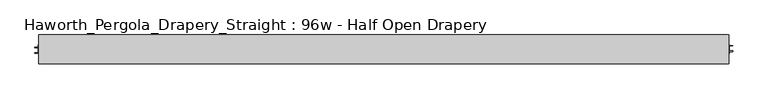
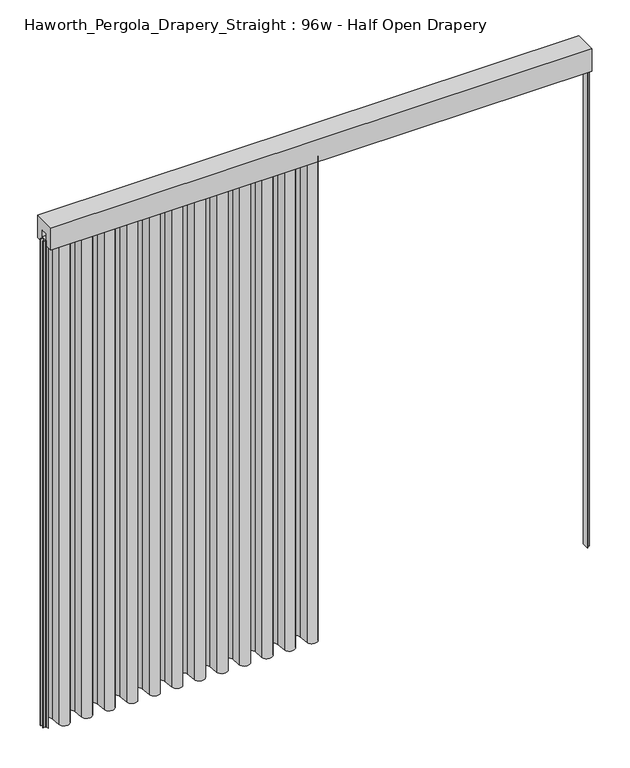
"""IFC4 building model written with IfcOpenShell, lengths in millimetres: furniture geometry, Haworth_Pergola_Drapery_Straight : 96w - Half Open Drapery."""

from ifc_helpers import new_model, si_unit, point, frame, frame_2d, origin, place, context, project, spatial, polyline, circle_curve, trimmed, segment, composite_curve, outline, extrude, source, transform, mapped, element, save


def haworth_pergola_drapery_straight_96w_half_open_drapery_5506e995(model_context):
    return source(origin(), model_context, "Body", "SweptSolid", [
        extrude(outline(polyline([(50.8, 2438.4), (50.8, 2331.8390625), (15.2182948, 2331.8390625), (15.2182948, 2388.7001663), (-15.2182948, 2388.7001663), (-15.2182948, 2331.8390625), (-50.8, 2331.8390625), (-50.8, 2438.4), (50.8, 2438.4)])), frame((-1790.7, 0.0, 0.0), z_axis=(1.0, 0.0, 0.0), x_axis=(0.0, 1.0, 0.0)), (0.0, 0.0, 1.0), 2438.4),
        extrude(outline(composite_curve([segment(trimmed(circle_curve(frame_2d((-1765.2970217, 20.9840165)), 23.4029783), [point((-1788.7, 20.9840165))], [point((-1741.9892377, 23.0927114))], False, "CARTESIAN"), True, "CONTINUOUS"), segment(polyline([(-1741.9892377, 23.0927114), (-1737.7895802, -23.3268581)]), True, "CONTINUOUS"), segment(trimmed(circle_curve(frame_2d((-1714.5, -21.2198101)), 23.3847), [point((-1737.7895802, -23.3268581))], [point((-1691.2104196, -23.3268558))], True, "CARTESIAN"), True, "CONTINUOUS"), segment(polyline([(-1691.2104196, -23.3268558), (-1687.0203818, 22.9864352)]), True, "CONTINUOUS"), segment(trimmed(circle_curve(frame_2d((-1663.7000023, 20.876603)), 23.415625), [point((-1687.0203818, 22.9864352))], [point((-1640.3796229, 22.9864375))], False, "CARTESIAN"), True, "CONTINUOUS"), segment(polyline([(-1640.3796229, 22.9864375), (-1636.2203794, -22.986429)]), True, "CONTINUOUS"), segment(trimmed(circle_curve(frame_2d((-1612.9, -20.8765946)), 23.415625), [point((-1636.2203794, -22.986429))], [point((-1589.5796205, -22.9864268))], True, "CARTESIAN"), True, "CONTINUOUS"), segment(polyline([(-1589.5796205, -22.9864268), (-1585.4203818, 22.9864354)]), True, "CONTINUOUS"), segment(trimmed(circle_curve(frame_2d((-1562.1000023, 20.8766032)), 23.415625), [point((-1585.4203818, 22.9864354))], [point((-1538.7796229, 22.9864377))], False, "CARTESIAN"), True, "CONTINUOUS"), segment(polyline([(-1538.7796229, 22.9864377), (-1534.6203794, -22.9864294)]), True, "CONTINUOUS"), segment(trimmed(circle_curve(frame_2d((-1511.3, -20.876595)), 23.415625), [point((-1534.6203794, -22.9864294))], [point((-1487.9796205, -22.9864271))], True, "CARTESIAN"), True, "CONTINUOUS"), segment(polyline([(-1487.9796205, -22.9864271), (-1483.8203818, 22.9864352)]), True, "CONTINUOUS"), segment(trimmed(circle_curve(frame_2d((-1460.5000023, 20.876603)), 23.415625), [point((-1483.8203818, 22.9864352))], [point((-1437.1796229, 22.9864375))], False, "CARTESIAN"), True, "CONTINUOUS"), segment(polyline([(-1437.1796229, 22.9864375), (-1432.9895802, -23.3268581)]), True, "CONTINUOUS"), segment(trimmed(circle_curve(frame_2d((-1409.7, -21.2198101)), 23.3847), [point((-1432.9895802, -23.3268581))], [point((-1386.4104196, -23.3268558))], True, "CARTESIAN"), True, "CONTINUOUS"), segment(polyline([(-1386.4104196, -23.3268558), (-1382.2203818, 22.9864352)]), True, "CONTINUOUS"), segment(trimmed(circle_curve(frame_2d((-1358.9000023, 20.876603)), 23.415625), [point((-1382.2203818, 22.9864352))], [point((-1335.5796229, 22.9864375))], False, "CARTESIAN"), True, "CONTINUOUS"), segment(polyline([(-1335.5796229, 22.9864375), (-1331.3895802, -23.3268581)]), True, "CONTINUOUS"), segment(trimmed(circle_curve(frame_2d((-1308.1, -21.2198101)), 23.3847), [point((-1331.3895802, -23.3268581))], [point((-1284.8104196, -23.3268558))], True, "CARTESIAN"), True, "CONTINUOUS"), segment(polyline([(-1284.8104196, -23.3268558), (-1280.6203818, 22.9864352)]), True, "CONTINUOUS"), segment(trimmed(circle_curve(frame_2d((-1257.3000023, 20.876603)), 23.415625), [point((-1280.6203818, 22.9864352))], [point((-1233.9796229, 22.9864375))], False, "CARTESIAN"), True, "CONTINUOUS"), segment(polyline([(-1233.9796229, 22.9864375), (-1229.7895802, -23.3268581)]), True, "CONTINUOUS"), segment(trimmed(circle_curve(frame_2d((-1206.5, -21.2198101)), 23.3847), [point((-1229.7895802, -23.3268581))], [point((-1183.2104196, -23.3268558))], True, "CARTESIAN"), True, "CONTINUOUS"), segment(polyline([(-1183.2104196, -23.3268558), (-1179.0203818, 22.9864352)]), True, "CONTINUOUS"), segment(trimmed(circle_curve(frame_2d((-1155.7000023, 20.876603)), 23.415625), [point((-1179.0203818, 22.9864352))], [point((-1132.3796229, 22.9864375))], False, "CARTESIAN"), True, "CONTINUOUS"), segment(polyline([(-1132.3796229, 22.9864375), (-1128.1895802, -23.3268581)]), True, "CONTINUOUS"), segment(trimmed(circle_curve(frame_2d((-1104.9, -21.2198101)), 23.3847), [point((-1128.1895802, -23.3268581))], [point((-1081.6104196, -23.3268558))], True, "CARTESIAN"), True, "CONTINUOUS"), segment(polyline([(-1081.6104196, -23.3268558), (-1077.4203818, 22.9864352)]), True, "CONTINUOUS"), segment(trimmed(circle_curve(frame_2d((-1054.1000023, 20.876603)), 23.415625), [point((-1077.4203818, 22.9864352))], [point((-1030.7796229, 22.9864375))], False, "CARTESIAN"), True, "CONTINUOUS"), segment(polyline([(-1030.7796229, 22.9864375), (-1026.5895802, -23.3268581)]), True, "CONTINUOUS"), segment(trimmed(circle_curve(frame_2d((-1003.3, -21.2198101)), 23.3847), [point((-1026.5895802, -23.3268581))], [point((-980.0104196, -23.3268558))], True, "CARTESIAN"), True, "CONTINUOUS"), segment(polyline([(-980.0104196, -23.3268558), (-975.8203818, 22.9864352)]), True, "CONTINUOUS"), segment(trimmed(circle_curve(frame_2d((-952.5000023, 20.876603)), 23.415625), [point((-975.8203818, 22.9864352))], [point((-929.1796229, 22.9864375))], False, "CARTESIAN"), True, "CONTINUOUS"), segment(polyline([(-929.1796229, 22.9864375), (-924.9895802, -23.3268581)]), True, "CONTINUOUS"), segment(trimmed(circle_curve(frame_2d((-901.7, -21.2198101)), 23.3847), [point((-924.9895802, -23.3268581))], [point((-878.4104196, -23.3268558))], True, "CARTESIAN"), True, "CONTINUOUS"), segment(polyline([(-878.4104196, -23.3268558), (-874.2203818, 22.9864352)]), True, "CONTINUOUS"), segment(trimmed(circle_curve(frame_2d((-850.9000023, 20.876603)), 23.415625), [point((-874.2203818, 22.9864352))], [point((-827.5796229, 22.9864375))], False, "CARTESIAN"), True, "CONTINUOUS"), segment(polyline([(-827.5796229, 22.9864375), (-823.3895802, -23.3268581)]), True, "CONTINUOUS"), segment(trimmed(circle_curve(frame_2d((-800.1, -21.2198101)), 23.3847), [point((-823.3895802, -23.3268581))], [point((-776.8104196, -23.3268558))], True, "CARTESIAN"), True, "CONTINUOUS"), segment(polyline([(-776.8104196, -23.3268558), (-772.6203818, 22.9864352)]), True, "CONTINUOUS"), segment(trimmed(circle_curve(frame_2d((-749.3000023, 20.876603)), 23.415625), [point((-772.6203818, 22.9864352))], [point((-725.9796229, 22.9864375))], False, "CARTESIAN"), True, "CONTINUOUS"), segment(polyline([(-725.9796229, 22.9864375), (-721.7895802, -23.3268581)]), True, "CONTINUOUS"), segment(trimmed(circle_curve(frame_2d((-698.5, -21.2198101)), 23.3847), [point((-721.7895802, -23.3268581))], [point((-675.2104196, -23.3268558))], True, "CARTESIAN"), True, "CONTINUOUS"), segment(polyline([(-675.2104196, -23.3268558), (-671.0203818, 22.9864352)]), True, "CONTINUOUS"), segment(trimmed(circle_curve(frame_2d((-647.7000023, 20.876603)), 23.415625), [point((-671.0203818, 22.9864352))], [point((-624.3796229, 22.9864375))], False, "CARTESIAN"), True, "CONTINUOUS"), segment(polyline([(-624.3796229, 22.9864375), (-620.2000968, -23.2106161)]), True, "CONTINUOUS"), segment(trimmed(circle_curve(frame_2d((-596.9451118, -21.106698)), 23.3499635), [point((-620.2000968, -23.2106161))], [point((-573.5951483, -21.106698))], True, "CARTESIAN"), True, "CONTINUOUS"), segment(polyline([(-573.5951483, -21.106698), (-573.5951483, 25.4000007), (-572.8013983, 25.4000007), (-572.8013983, -21.106698)]), True, "CONTINUOUS"), segment(trimmed(circle_curve(frame_2d((-596.9451118, -21.106698)), 24.1437135), [point((-572.8013983, -21.106698))], [point((-620.9906181, -23.2821359))], False, "CARTESIAN"), True, "CONTINUOUS"), segment(polyline([(-620.9906181, -23.2821359), (-625.1701443, 22.9149177)]), True, "CONTINUOUS"), segment(trimmed(circle_curve(frame_2d((-647.7000023, 20.876603)), 22.621875), [point((-625.1701443, 22.9149177))], [point((-670.2298605, 22.9149155))], True, "CARTESIAN"), True, "CONTINUOUS"), segment(polyline([(-670.2298605, 22.9149155), (-674.4198983, -23.3983756)]), True, "CONTINUOUS"), segment(trimmed(circle_curve(frame_2d((-698.5, -21.2198101)), 24.17845), [point((-674.4198983, -23.3983756))], [point((-722.5801015, -23.3983779))], False, "CARTESIAN"), True, "CONTINUOUS"), segment(polyline([(-722.5801015, -23.3983779), (-726.7701443, 22.9149177)]), True, "CONTINUOUS"), segment(trimmed(circle_curve(frame_2d((-749.3000023, 20.876603)), 22.621875), [point((-726.7701443, 22.9149177))], [point((-771.8298605, 22.9149155))], True, "CARTESIAN"), True, "CONTINUOUS"), segment(polyline([(-771.8298605, 22.9149155), (-776.0198983, -23.3983756)]), True, "CONTINUOUS"), segment(trimmed(circle_curve(frame_2d((-800.1, -21.2198101)), 24.17845), [point((-776.0198983, -23.3983756))], [point((-824.1801015, -23.3983779))], False, "CARTESIAN"), True, "CONTINUOUS"), segment(polyline([(-824.1801015, -23.3983779), (-828.3701443, 22.9149177)]), True, "CONTINUOUS"), segment(trimmed(circle_curve(frame_2d((-850.9000023, 20.876603)), 22.621875), [point((-828.3701443, 22.9149177))], [point((-873.4298605, 22.9149155))], True, "CARTESIAN"), True, "CONTINUOUS"), segment(polyline([(-873.4298605, 22.9149155), (-877.6198983, -23.3983756)]), True, "CONTINUOUS"), segment(trimmed(circle_curve(frame_2d((-901.7, -21.2198101)), 24.17845), [point((-877.6198983, -23.3983756))], [point((-925.7801015, -23.3983779))], False, "CARTESIAN"), True, "CONTINUOUS"), segment(polyline([(-925.7801015, -23.3983779), (-929.9701443, 22.9149177)]), True, "CONTINUOUS"), segment(trimmed(circle_curve(frame_2d((-952.5000023, 20.876603)), 22.621875), [point((-929.9701443, 22.9149177))], [point((-975.0298605, 22.9149155))], True, "CARTESIAN"), True, "CONTINUOUS"), segment(polyline([(-975.0298605, 22.9149155), (-979.2198983, -23.3983756)]), True, "CONTINUOUS"), segment(trimmed(circle_curve(frame_2d((-1003.3, -21.2198101)), 24.17845), [point((-979.2198983, -23.3983756))], [point((-1027.3801015, -23.3983779))], False, "CARTESIAN"), True, "CONTINUOUS"), segment(polyline([(-1027.3801015, -23.3983779), (-1031.5701443, 22.9149177)]), True, "CONTINUOUS"), segment(trimmed(circle_curve(frame_2d((-1054.1000023, 20.876603)), 22.621875), [point((-1031.5701443, 22.9149177))], [point((-1076.6298605, 22.9149155))], True, "CARTESIAN"), True, "CONTINUOUS"), segment(polyline([(-1076.6298605, 22.9149155), (-1080.8198983, -23.3983756)]), True, "CONTINUOUS"), segment(trimmed(circle_curve(frame_2d((-1104.9, -21.2198101)), 24.17845), [point((-1080.8198983, -23.3983756))], [point((-1128.9801015, -23.3983779))], False, "CARTESIAN"), True, "CONTINUOUS"), segment(polyline([(-1128.9801015, -23.3983779), (-1133.1701443, 22.9149177)]), True, "CONTINUOUS"), segment(trimmed(circle_curve(frame_2d((-1155.7000023, 20.876603)), 22.621875), [point((-1133.1701443, 22.9149177))], [point((-1178.2298605, 22.9149155))], True, "CARTESIAN"), True, "CONTINUOUS"), segment(polyline([(-1178.2298605, 22.9149155), (-1182.4198983, -23.3983756)]), True, "CONTINUOUS"), segment(trimmed(circle_curve(frame_2d((-1206.5, -21.2198101)), 24.17845), [point((-1182.4198983, -23.3983756))], [point((-1230.5801015, -23.3983779))], False, "CARTESIAN"), True, "CONTINUOUS"), segment(polyline([(-1230.5801015, -23.3983779), (-1234.7701443, 22.9149177)]), True, "CONTINUOUS"), segment(trimmed(circle_curve(frame_2d((-1257.3000023, 20.876603)), 22.621875), [point((-1234.7701443, 22.9149177))], [point((-1279.8298605, 22.9149155))], True, "CARTESIAN"), True, "CONTINUOUS"), segment(polyline([(-1279.8298605, 22.9149155), (-1284.0198983, -23.3983756)]), True, "CONTINUOUS"), segment(trimmed(circle_curve(frame_2d((-1308.1, -21.2198101)), 24.17845), [point((-1284.0198983, -23.3983756))], [point((-1332.1801015, -23.3983779))], False, "CARTESIAN"), True, "CONTINUOUS"), segment(polyline([(-1332.1801015, -23.3983779), (-1336.3701443, 22.9149177)]), True, "CONTINUOUS"), segment(trimmed(circle_curve(frame_2d((-1358.9000023, 20.876603)), 22.621875), [point((-1336.3701443, 22.9149177))], [point((-1381.4298605, 22.9149155))], True, "CARTESIAN"), True, "CONTINUOUS"), segment(polyline([(-1381.4298605, 22.9149155), (-1385.6198983, -23.3983756)]), True, "CONTINUOUS"), segment(trimmed(circle_curve(frame_2d((-1409.7, -21.2198101)), 24.17845), [point((-1385.6198983, -23.3983756))], [point((-1433.7801015, -23.3983779))], False, "CARTESIAN"), True, "CONTINUOUS"), segment(polyline([(-1433.7801015, -23.3983779), (-1437.9701443, 22.9149177)]), True, "CONTINUOUS"), segment(trimmed(circle_curve(frame_2d((-1460.5000023, 20.876603)), 22.621875), [point((-1437.9701443, 22.9149177))], [point((-1483.0298605, 22.9149155))], True, "CARTESIAN"), True, "CONTINUOUS"), segment(polyline([(-1483.0298605, 22.9149155), (-1487.1890991, -23.0579469)]), True, "CONTINUOUS"), segment(trimmed(circle_curve(frame_2d((-1511.3, -20.876595)), 24.209375), [point((-1487.1890991, -23.0579469))], [point((-1535.4109007, -23.0579492))], False, "CARTESIAN"), True, "CONTINUOUS"), segment(polyline([(-1535.4109007, -23.0579492), (-1539.5701443, 22.9149178)]), True, "CONTINUOUS"), segment(trimmed(circle_curve(frame_2d((-1562.1000023, 20.8766032)), 22.621875), [point((-1539.5701443, 22.9149178))], [point((-1584.6298605, 22.9149157))], True, "CARTESIAN"), True, "CONTINUOUS"), segment(polyline([(-1584.6298605, 22.9149157), (-1588.7890991, -23.0579465)]), True, "CONTINUOUS"), segment(trimmed(circle_curve(frame_2d((-1612.9, -20.8765946)), 24.209375), [point((-1588.7890991, -23.0579465))], [point((-1637.0109007, -23.0579488))], False, "CARTESIAN"), True, "CONTINUOUS"), segment(polyline([(-1637.0109007, -23.0579488), (-1641.1701443, 22.9149177)]), True, "CONTINUOUS"), segment(trimmed(circle_curve(frame_2d((-1663.7000023, 20.876603)), 22.621875), [point((-1641.1701443, 22.9149177))], [point((-1686.2298605, 22.9149155))], True, "CARTESIAN"), True, "CONTINUOUS"), segment(polyline([(-1686.2298605, 22.9149155), (-1690.4198983, -23.3983756)]), True, "CONTINUOUS"), segment(trimmed(circle_curve(frame_2d((-1714.5, -21.2198101)), 24.17845), [point((-1690.4198983, -23.3983756))], [point((-1738.5801015, -23.3983779))], False, "CARTESIAN"), True, "CONTINUOUS"), segment(polyline([(-1738.5801015, -23.3983779), (-1742.779759, 23.0211916)]), True, "CONTINUOUS"), segment(trimmed(circle_curve(frame_2d((-1765.2970217, 20.9840165)), 22.6092283), [point((-1742.779759, 23.0211916))], [point((-1787.90625, 20.9840165))], True, "CARTESIAN"), True, "CONTINUOUS"), segment(polyline([(-1787.90625, 20.9840165), (-1787.90625, -25.4000008), (-1788.7, -25.4000008), (-1788.7, 20.9840165)]), True, "CONTINUOUS")], self_intersect=False)), frame((0.0, 0.0, 38.1), z_axis=(0.0, 0.0, 1.0), x_axis=(1.0, 0.0, 0.0)), (0.0, 0.0, 1.0), 2305.05),
        extrude(outline(polyline([(-1790.7, 15.2249995), (647.7, 15.2249995), (647.7, -15.2249996), (-1790.7, -15.2249996), (-1790.7, 15.2249995)])), frame((0.0, 0.0, 2355.85), z_axis=(0.0, 0.0, 1.0), x_axis=(1.0, 0.0, 0.0)), (0.0, 0.0, 1.0), 1.7500385),
        extrude(outline(polyline([(647.7, 15.2249996), (649.4500001, 15.2249996), (649.4500001, 13.3999997), (660.9499997, 13.3999997), (660.9499997, 11.8250005), (649.4500001, 11.8250005), (649.4500001, -4.8250001), (661.0999997, -4.8250001), (661.0999997, -7.8249998), (649.4500001, -7.8249998), (649.4500001, -15.2249995), (647.7, -15.2249995), (647.7, 15.2249996)])), frame((0.0, 0.0, 38.1), z_axis=(0.0, 0.0, 1.0), x_axis=(1.0, 0.0, 0.0)), (0.0, 0.0, 1.0), 2317.75),
        extrude(outline(polyline([(-1790.7, -15.2249996), (-1792.4500001, -15.2249996), (-1792.4500001, -13.3999997), (-1803.9499997, -13.3999997), (-1803.9499997, -11.8250005), (-1792.4500001, -11.8250005), (-1792.4500001, 4.8250001), (-1804.0999997, 4.8250001), (-1804.0999997, 7.8249998), (-1792.4500001, 7.8249998), (-1792.4500001, 15.2249995), (-1790.7, 15.2249995), (-1790.7, -15.2249996)])), frame((0.0, 0.0, 38.1), z_axis=(0.0, 0.0, 1.0), x_axis=(1.0, 0.0, 0.0)), (0.0, 0.0, 1.0), 2317.75),
        extrude(outline(composite_curve([segment(trimmed(circle_curve(frame_2d((-571.5, 0.0)), 6.0), [point((-577.5, 0.0))], [point((-565.5, 0.0))], False, "CARTESIAN"), True, "CONTINUOUS"), segment(trimmed(circle_curve(frame_2d((-571.5, 0.0)), 6.0), [point((-565.5, 0.0))], [point((-577.5, 0.0))], False, "CARTESIAN"), True, "CONTINUOUS")], self_intersect=False)), frame((0.0, 0.0, 2319.1390625), z_axis=(0.0, 0.0, 1.0), x_axis=(1.0, 0.0, 0.0)), (0.0, 0.0, 1.0), 36.7109375),
    ])


if __name__ == "__main__":
    model = new_model("IFC4")
    model_context = context("Model", 3, world=origin())
    ifc_project = project(units=[si_unit("LENGTHUNIT", "METRE", prefix="MILLI")], contexts=[model_context])
    site = spatial("IfcSite", under=ifc_project)
    building = spatial("IfcBuilding", under=site)
    placement = place(None, origin())
    haworth_pergola_drapery_straight_96w_half_open_drapery_shape = haworth_pergola_drapery_straight_96w_half_open_drapery_5506e995(model_context)
    element("IfcFurniture", 1, ObjectType="Haworth_Pergola_Drapery_Straight : 96w - Half Open Drapery", at=placement, inside=building, context=model_context, shape_type="MappedRepresentation", body=[
        mapped(haworth_pergola_drapery_straight_96w_half_open_drapery_shape, transform((0.0, 0.0, 0.0), x_axis=(1.0, 0.0, 0.0), y_axis=(0.0, 1.0, 0.0), z_axis=(0.0, 0.0, 1.0))),
    ])
    save(model, "model.ifc")
